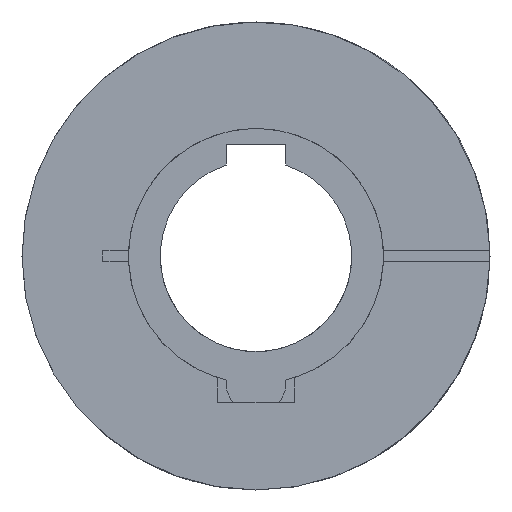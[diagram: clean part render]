
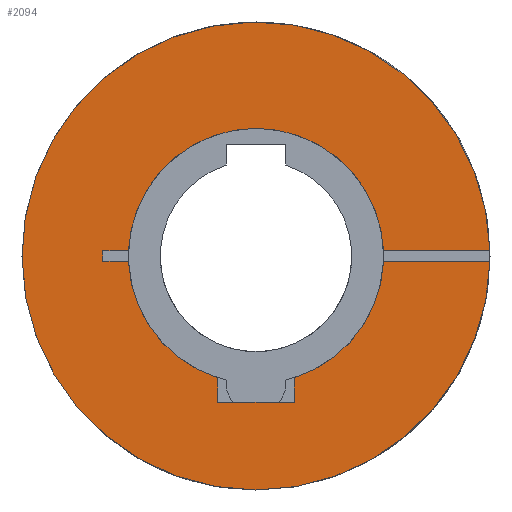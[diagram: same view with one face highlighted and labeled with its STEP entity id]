
A CAD part, left-side view. The second image highlights one B-rep face of the part: STEP entity #2094.
In plain terms, the highlighted planar face has unit normal (-1, 0, 0).
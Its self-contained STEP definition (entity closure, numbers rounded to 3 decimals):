
#43=PLANE('',#2391);
#194=LINE('',#3632,#312);
#197=LINE('',#3638,#315);
#198=LINE('',#3640,#316);
#202=LINE('',#3647,#320);
#205=LINE('',#3653,#323);
#209=LINE('',#3659,#327);
#210=LINE('',#3661,#328);
#211=LINE('',#3671,#329);
#312=VECTOR('',#2821,1.);
#315=VECTOR('',#2826,1.);
#316=VECTOR('',#2829,1.);
#320=VECTOR('',#2835,24.065);
#323=VECTOR('',#2842,24.065);
#327=VECTOR('',#2848,43.051);
#328=VECTOR('',#2851,43.051);
#329=VECTOR('',#2870,2.5);
#478=FACE_OUTER_BOUND('',#612,.T.);
#612=EDGE_LOOP('',(#1628,#1629,#1630,#1631,#1632,#1633,#1634,#1635,#1636,
#1637,#1638,#1639,#1640));
#802=CIRCLE('',#2362,55.);
#804=CIRCLE('',#2364,55.);
#808=CIRCLE('',#2369,30.);
#810=CIRCLE('',#2371,30.);
#811=CIRCLE('',#2373,30.);
#967=VERTEX_POINT('',#3584);
#968=VERTEX_POINT('',#3585);
#970=VERTEX_POINT('',#3590);
#977=VERTEX_POINT('',#3605);
#978=VERTEX_POINT('',#3607);
#981=VERTEX_POINT('',#3613);
#982=VERTEX_POINT('',#3615);
#983=VERTEX_POINT('',#3619);
#984=VERTEX_POINT('',#3620);
#988=VERTEX_POINT('',#3630);
#990=VERTEX_POINT('',#3636);
#992=VERTEX_POINT('',#3645);
#993=VERTEX_POINT('',#3652);
#1205=EDGE_CURVE('',#967,#968,#802,.T.);
#1208=EDGE_CURVE('',#968,#970,#804,.T.);
#1216=EDGE_CURVE('',#978,#977,#808,.T.);
#1220=EDGE_CURVE('',#982,#981,#810,.T.);
#1222=EDGE_CURVE('',#983,#984,#811,.T.);
#1228=EDGE_CURVE('',#981,#988,#194,.T.);
#1231=EDGE_CURVE('',#988,#990,#197,.T.);
#1232=EDGE_CURVE('',#990,#978,#198,.T.);
#1236=EDGE_CURVE('',#992,#977,#202,.T.);
#1239=EDGE_CURVE('',#993,#983,#205,.T.);
#1243=EDGE_CURVE('',#970,#984,#209,.T.);
#1244=EDGE_CURVE('',#967,#982,#210,.T.);
#1245=EDGE_CURVE('',#993,#992,#211,.T.);
#1628=ORIENTED_EDGE('',*,*,#1216,.T.);
#1629=ORIENTED_EDGE('',*,*,#1236,.F.);
#1630=ORIENTED_EDGE('',*,*,#1245,.F.);
#1631=ORIENTED_EDGE('',*,*,#1239,.T.);
#1632=ORIENTED_EDGE('',*,*,#1222,.T.);
#1633=ORIENTED_EDGE('',*,*,#1243,.F.);
#1634=ORIENTED_EDGE('',*,*,#1208,.F.);
#1635=ORIENTED_EDGE('',*,*,#1205,.F.);
#1636=ORIENTED_EDGE('',*,*,#1244,.T.);
#1637=ORIENTED_EDGE('',*,*,#1220,.T.);
#1638=ORIENTED_EDGE('',*,*,#1228,.T.);
#1639=ORIENTED_EDGE('',*,*,#1231,.T.);
#1640=ORIENTED_EDGE('',*,*,#1232,.T.);
#2094=ADVANCED_FACE('',(#478),#43,.T.);
#2362=AXIS2_PLACEMENT_3D('',#3586,#2781,#2782);
#2364=AXIS2_PLACEMENT_3D('',#3591,#2786,#2787);
#2369=AXIS2_PLACEMENT_3D('',#3608,#2800,#2801);
#2371=AXIS2_PLACEMENT_3D('',#3616,#2806,#2807);
#2373=AXIS2_PLACEMENT_3D('',#3621,#2811,#2812);
#2391=AXIS2_PLACEMENT_3D('',#3670,#2868,#2869);
#2781=DIRECTION('center_axis',(1.,0.,0.));
#2782=DIRECTION('ref_axis',(0.,0.,1.));
#2786=DIRECTION('center_axis',(1.,0.,0.));
#2787=DIRECTION('ref_axis',(0.,0.,1.));
#2800=DIRECTION('center_axis',(1.,0.,0.));
#2801=DIRECTION('ref_axis',(0.,0.,-1.));
#2806=DIRECTION('center_axis',(1.,0.,0.));
#2807=DIRECTION('ref_axis',(0.,0.,-1.));
#2811=DIRECTION('center_axis',(1.,0.,0.));
#2812=DIRECTION('ref_axis',(0.,0.,-1.));
#2821=DIRECTION('',(0.,0.,-1.));
#2826=DIRECTION('',(0.,1.,0.));
#2829=DIRECTION('',(0.,0.,1.));
#2835=DIRECTION('',(0.,-1.,0.));
#2842=DIRECTION('',(0.,-1.,0.));
#2848=DIRECTION('',(0.,1.,0.));
#2851=DIRECTION('',(0.,1.,0.));
#2868=DIRECTION('center_axis',(-1.,0.,0.));
#2869=DIRECTION('ref_axis',(0.,-1.,0.));
#2870=DIRECTION('',(0.,0.,-1.));
#3584=CARTESIAN_POINT('',(0.,-54.986,-1.25));
#3585=CARTESIAN_POINT('',(0.,0.,-55.));
#3586=CARTESIAN_POINT('Origin',(0.,0.,0.));
#3590=CARTESIAN_POINT('',(0.,-54.986,1.25));
#3591=CARTESIAN_POINT('Origin',(0.,0.,0.));
#3605=CARTESIAN_POINT('',(0.,29.974,-1.25));
#3607=CARTESIAN_POINT('',(0.,9.,-28.618));
#3608=CARTESIAN_POINT('Origin',(0.,0.,0.));
#3613=CARTESIAN_POINT('',(0.,-9.,-28.618));
#3615=CARTESIAN_POINT('',(0.,-29.974,-1.25));
#3616=CARTESIAN_POINT('Origin',(0.,0.,0.));
#3619=CARTESIAN_POINT('',(0.,29.974,1.25));
#3620=CARTESIAN_POINT('',(0.,-29.974,1.25));
#3621=CARTESIAN_POINT('Origin',(0.,0.,0.));
#3630=CARTESIAN_POINT('',(0.,-9.,-34.4));
#3632=CARTESIAN_POINT('',(0.,-9.,-8.6));
#3636=CARTESIAN_POINT('',(0.,9.,-34.4));
#3638=CARTESIAN_POINT('',(0.,0.,-34.4));
#3640=CARTESIAN_POINT('',(0.,9.,-8.6));
#3645=CARTESIAN_POINT('',(0.,36.,-1.25));
#3647=CARTESIAN_POINT('',(0.,36.,-1.25));
#3652=CARTESIAN_POINT('',(0.,36.,1.25));
#3653=CARTESIAN_POINT('',(0.,36.,1.25));
#3659=CARTESIAN_POINT('',(0.,-54.986,1.25));
#3661=CARTESIAN_POINT('',(0.,-54.986,-1.25));
#3670=CARTESIAN_POINT('Origin',(0.,0.,0.));
#3671=CARTESIAN_POINT('',(0.,36.,1.25));
